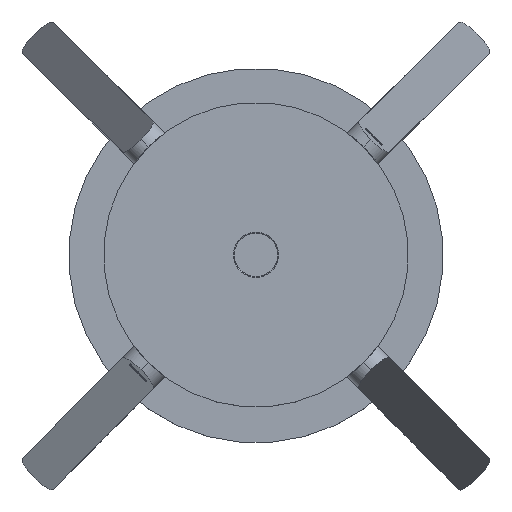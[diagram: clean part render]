
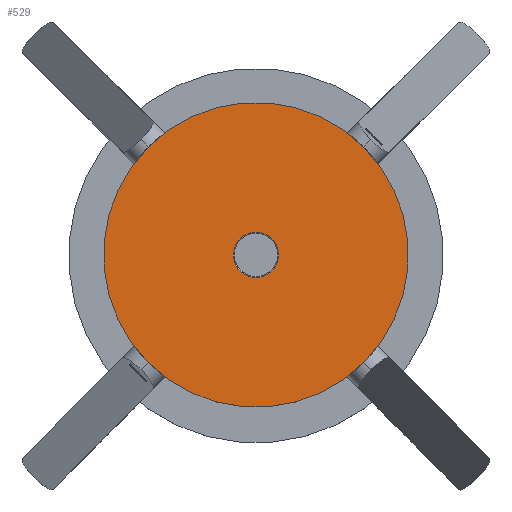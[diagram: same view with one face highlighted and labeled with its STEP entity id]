
A CAD part, top view. The second image highlights one B-rep face of the part: STEP entity #529.
In plain terms, the highlighted planar face has unit normal (0, 0, 1).
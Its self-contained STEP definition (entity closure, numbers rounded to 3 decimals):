
#27=TRIMMED_CURVE($,#90,(#11040),(#11041),.T.,.CARTESIAN.);
#35=TRIMMED_CURVE($,#98,(#11070),(#11071),.T.,.CARTESIAN.);
#39=TRIMMED_CURVE($,#102,(#11084),(#11085),.T.,.CARTESIAN.);
#48=TRIMMED_CURVE($,#111,(#11115),(#11116),.T.,.CARTESIAN.);
#90=CIRCLE('',#6166,175.);
#98=CIRCLE('',#6174,26.);
#102=CIRCLE('',#6178,175.);
#111=CIRCLE('',#6187,26.);
#286=FACE_BOUND('',#1272,.T.);
#529=ADVANCED_FACE('',(#888,#286),#5807,.T.);
#888=FACE_OUTER_BOUND('',#1271,.T.);
#1271=EDGE_LOOP('',(#2617,#2618));
#1272=EDGE_LOOP('',(#2619,#2620));
#2617=ORIENTED_EDGE('',*,*,#3859,.F.);
#2618=ORIENTED_EDGE('',*,*,#3843,.F.);
#2619=ORIENTED_EDGE('',*,*,#3854,.T.);
#2620=ORIENTED_EDGE('',*,*,#3870,.T.);
#3843=EDGE_CURVE('',#5371,#5380,#27,.T.);
#3854=EDGE_CURVE('',#5376,#5387,#35,.T.);
#3859=EDGE_CURVE('',#5380,#5371,#39,.T.);
#3870=EDGE_CURVE('',#5387,#5376,#48,.T.);
#5371=VERTEX_POINT('',#11021);
#5376=VERTEX_POINT('',#11026);
#5380=VERTEX_POINT('',#11030);
#5387=VERTEX_POINT('',#11037);
#5807=PLANE('',#6157);
#6157=AXIS2_PLACEMENT_3D('',#10922,#6508,$);
#6166=AXIS2_PLACEMENT_3D($,#11039,#6517,#6518);
#6174=AXIS2_PLACEMENT_3D($,#11069,#6533,#6534);
#6178=AXIS2_PLACEMENT_3D($,#11083,#6541,#6542);
#6187=AXIS2_PLACEMENT_3D($,#11114,#6559,#6560);
#6508=DIRECTION('',(0.,0.,1.));
#6517=DIRECTION('',(0.,0.,-1.));
#6518=DIRECTION('',(-0.707,-0.707,0.));
#6533=DIRECTION('',(0.,0.,-1.));
#6534=DIRECTION('',(1.,0.,0.));
#6541=DIRECTION('',(0.,0.,-1.));
#6542=DIRECTION('',(0.707,0.707,0.));
#6559=DIRECTION('',(0.,0.,-1.));
#6560=DIRECTION('',(-1.,0.,0.));
#10922=CARTESIAN_POINT('',(18316.903,0.,-3493.232));
#11021=CARTESIAN_POINT('',(17883.8,-123.744,-3493.232));
#11026=CARTESIAN_POINT('',(18033.544,0.,-3493.232));
#11030=CARTESIAN_POINT('',(18131.287,123.744,-3493.232));
#11037=CARTESIAN_POINT('',(17981.544,0.,-3493.232));
#11039=CARTESIAN_POINT('',(18007.544,0.,-3493.232));
#11040=CARTESIAN_POINT('',(17883.8,-123.744,-3493.232));
#11041=CARTESIAN_POINT('',(18131.287,123.744,-3493.232));
#11069=CARTESIAN_POINT('',(18007.544,0.,-3493.232));
#11070=CARTESIAN_POINT('',(18033.544,0.,-3493.232));
#11071=CARTESIAN_POINT('',(17981.544,0.,-3493.232));
#11083=CARTESIAN_POINT('',(18007.544,0.,-3493.232));
#11084=CARTESIAN_POINT('',(18131.287,123.744,-3493.232));
#11085=CARTESIAN_POINT('',(17883.8,-123.744,-3493.232));
#11114=CARTESIAN_POINT('',(18007.544,0.,-3493.232));
#11115=CARTESIAN_POINT('',(17981.544,0.,-3493.232));
#11116=CARTESIAN_POINT('',(18033.544,0.,-3493.232));
